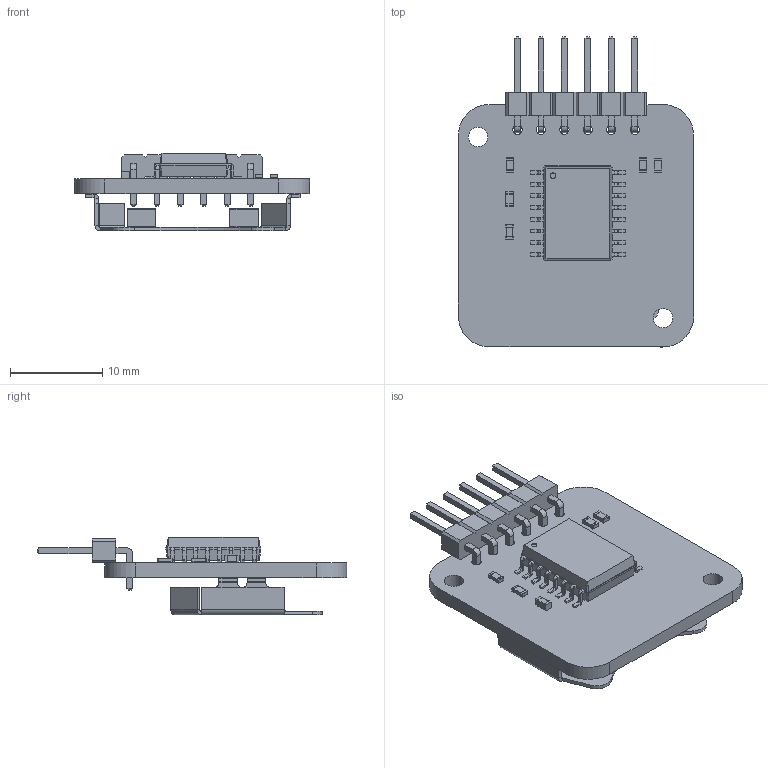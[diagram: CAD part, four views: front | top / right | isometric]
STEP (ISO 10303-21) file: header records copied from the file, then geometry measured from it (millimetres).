
FILE_DESCRIPTION(('KiCad electronic assembly'),'2;1');
FILE_NAME('ds3231RTC.step','2021-04-11T13:51:10',('An Author'),( 'A Company'),'Open CASCADE STEP processor 6.9', 'KiCad to STEP converter','Unknown');
FILE_SCHEMA(('AUTOMOTIVE_DESIGN { 1 0 10303 214 1 1 1 1 }'));
Length unit declared in the file: millimetre
Products named in the file (12): Open CASCADE STEP translator 6.9 1; C_0603_1608Metric; SOLID; R_0603_1608Metric; SOIC-16W_7.5x10.3mm_P1.27mm; PinHeader_1x06_P2.54mm_Horizontal; BatteryHolder_Keystone_3034_1x20mm; COMPOUND
Assembly tree (14 placements, depth 3):
  Open CASCADE STEP translator 6.9 1
    C_0603_1608Metric
      SOLID
    R_0603_1608Metric  x4
      SOLID
    SOIC-16W_7.5x10.3mm_P1.27mm
      SOLID
    PinHeader_1x06_P2.54mm_Horizontal
      SOLID
    BatteryHolder_Keystone_3034_1x20mm
      SOLID
    COMPOUND
Bounding box: 25.48 x 33.59 x 8.45 mm (x, y, z)
Volume: 1489.2 mm3; surface area: 2911.1 mm2
Topology: 9 solids, 9 shells, 756 faces, 1929 edges, 1206 vertices
Faces by surface type: plane 548, cylinder 168, bspline 40
Full cylindrical faces by diameter (mm): 0.6 x1, 1 x6, 2.1 x2
Entity records: 46461 total; most frequent: CARTESIAN_POINT 7866, DIRECTION 6547, LINE 4475, VECTOR 4475, ORIENTED_EDGE 3450, PCURVE 3450, DEFINITIONAL_REPRESENTATION 3450, EDGE_CURVE 1725
